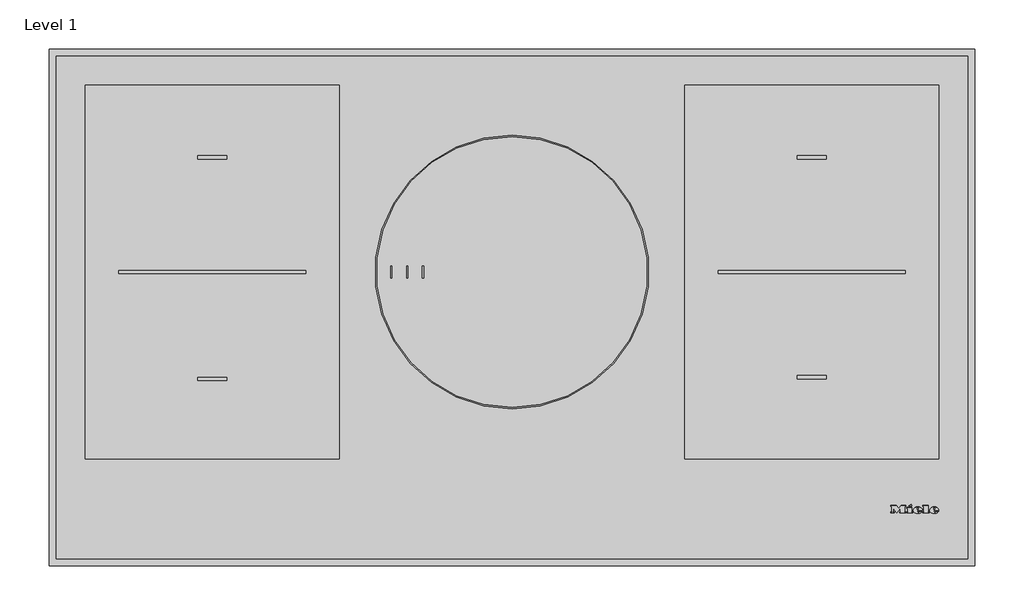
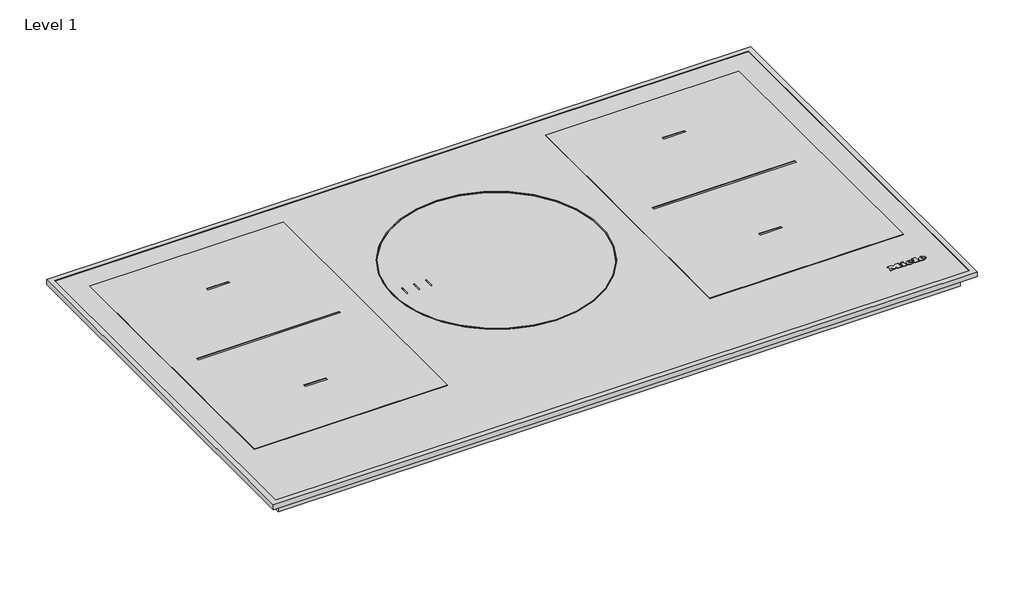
# One storey: 1 proxy.
"""IFC4 building model written with IfcOpenShell, lengths in millimetres."""

from ifc_helpers import new_model, si_unit, origin, place, context, project, spatial, transform, mapped, element, save
from components import specialty_equipment_291f9324

model = new_model("IFC4")

# Units and contexts
model_context = context("Model", 3, world=origin())
ifc_project = project(units=[si_unit("LENGTHUNIT", "METRE", prefix="MILLI")], contexts=[model_context])

# Site, building, storey
site = spatial("IfcSite", under=ifc_project)
building = spatial("IfcBuilding", under=site)
storey = spatial("IfcBuildingStorey", under=building, Name="Level 1", Elevation=0.0)

# Proxy
placement = place(None, origin())
specialty_equipment_shape = specialty_equipment_291f9324(model_context)
element("IfcBuildingElementProxy", 1, Name="11276540_BR_KM7594FR : 26759400_BR_11276540_KM7594FR", ObjectType="11276540_BR_KM7594FR : 26759400_BR_11276540_KM7594FR", at=placement, inside=storey, context=model_context, shape_type="MappedRepresentation", body=[
    mapped(specialty_equipment_shape, transform((0.0, 0.0, 0.0), x_axis=(1.0, 0.0, 0.0), y_axis=(0.0, 1.0, 0.0), z_axis=(0.0, 0.0, 1.0))),
])

save(model, "model.ifc")
